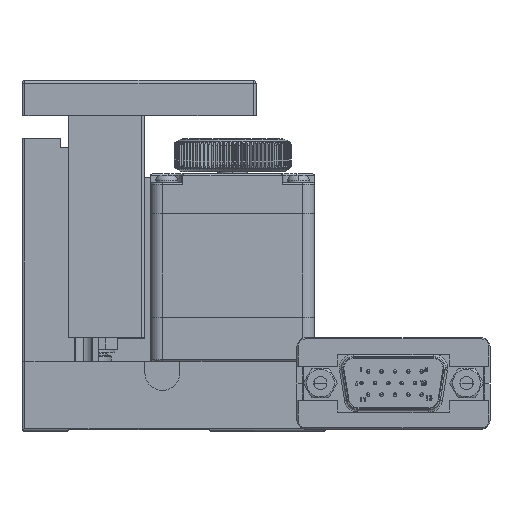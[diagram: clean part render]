
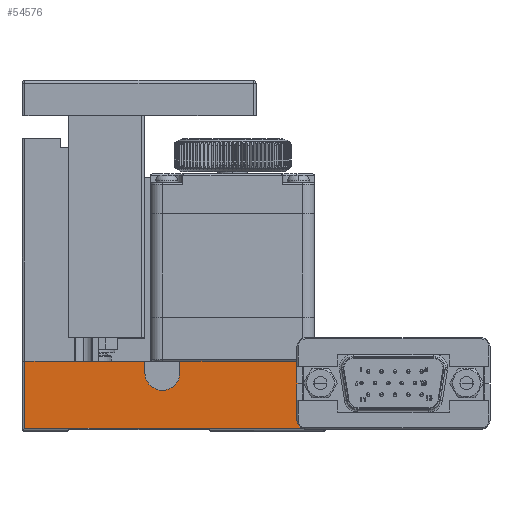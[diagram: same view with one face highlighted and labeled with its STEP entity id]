
A CAD part, top view. The second image highlights one B-rep face of the part: STEP entity #54576.
In plain terms, the highlighted planar face has unit normal (0, 0, 1).
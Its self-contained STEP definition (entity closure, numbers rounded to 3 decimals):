
#693 = ORIENTED_EDGE ( 'NONE', *, *, #53561, .F. ) ;
#2299 = CARTESIAN_POINT ( 'NONE',  ( 25.5, -11.5, 24. ) ) ;
#2664 = VERTEX_POINT ( 'NONE', #9836 ) ;
#2916 = DIRECTION ( 'NONE',  ( 1., 0., 0. ) ) ;
#3663 = VERTEX_POINT ( 'NONE', #39947 ) ;
#5006 = DIRECTION ( 'NONE',  ( 1., 0., 0. ) ) ;
#9836 = CARTESIAN_POINT ( 'NONE',  ( -5., 0., 24. ) ) ;
#9968 = LINE ( 'NONE', #12873, #41872 ) ;
#10288 = FACE_OUTER_BOUND ( 'NONE', #34164, .T. ) ;
#10770 = VERTEX_POINT ( 'NONE', #34770 ) ;
#12873 = CARTESIAN_POINT ( 'NONE',  ( 25.5, -12., 24. ) ) ;
#14024 = LINE ( 'NONE', #78942, #35012 ) ;
#14315 = ORIENTED_EDGE ( 'NONE', *, *, #20446, .T. ) ;
#15429 = PLANE ( 'NONE',  #22726 ) ;
#15586 = ORIENTED_EDGE ( 'NONE', *, *, #82175, .F. ) ;
#18749 = VERTEX_POINT ( 'NONE', #32262 ) ;
#20446 = EDGE_CURVE ( 'NONE', #47909, #24850, #26379, .T. ) ;
#22726 = AXIS2_PLACEMENT_3D ( 'NONE', #79128, #41070, #2916 ) ;
#24850 = VERTEX_POINT ( 'NONE', #58619 ) ;
#24983 = ORIENTED_EDGE ( 'NONE', *, *, #42246, .F. ) ;
#25094 = DIRECTION ( 'NONE',  ( 0., -1., 0. ) ) ;
#25599 = DIRECTION ( 'NONE',  ( 0., 0., 1. ) ) ;
#25998 = DIRECTION ( 'NONE',  ( 0., 1., 0. ) ) ;
#26379 = LINE ( 'NONE', #2299, #41301 ) ;
#26672 = ORIENTED_EDGE ( 'NONE', *, *, #59243, .F. ) ;
#27697 = DIRECTION ( 'NONE',  ( 1., 0., 0. ) ) ;
#31924 = DIRECTION ( 'NONE',  ( 0., -1., 0. ) ) ;
#31929 = EDGE_CURVE ( 'NONE', #3663, #47909, #56382, .T. ) ;
#32262 = CARTESIAN_POINT ( 'NONE',  ( 1., -2., 24. ) ) ;
#34164 = EDGE_LOOP ( 'NONE', ( #24983, #26672, #42638, #14315, #51403, #693, #15586, #74714 ) ) ;
#34770 = CARTESIAN_POINT ( 'NONE',  ( 1., 0., 24. ) ) ;
#35012 = VECTOR ( 'NONE', #40877, 1000. ) ;
#36808 = VERTEX_POINT ( 'NONE', #72369 ) ;
#37441 = VECTOR ( 'NONE', #25094, 1000. ) ;
#37884 = VECTOR ( 'NONE', #31924, 1000. ) ;
#39947 = CARTESIAN_POINT ( 'NONE',  ( -25.5, 0., 24. ) ) ;
#40877 = DIRECTION ( 'NONE',  ( 0., 1., 0. ) ) ;
#41070 = DIRECTION ( 'NONE',  ( 0., 0., 1. ) ) ;
#41301 = VECTOR ( 'NONE', #27697, 1000. ) ;
#41872 = VECTOR ( 'NONE', #25998, 1000. ) ;
#42246 = EDGE_CURVE ( 'NONE', #2664, #72223, #71743, .T. ) ;
#42638 = ORIENTED_EDGE ( 'NONE', *, *, #31929, .T. ) ;
#47909 = VERTEX_POINT ( 'NONE', #57467 ) ;
#48540 = VECTOR ( 'NONE', #5006, 1000. ) ;
#51403 = ORIENTED_EDGE ( 'NONE', *, *, #74509, .T. ) ;
#52623 = CARTESIAN_POINT ( 'NONE',  ( -5., -2., 24. ) ) ;
#53561 = EDGE_CURVE ( 'NONE', #10770, #36808, #57275, .T. ) ;
#54576 = ADVANCED_FACE ( 'NONE', ( #10288 ), #15429, .T. ) ;
#55032 = CARTESIAN_POINT ( 'NONE',  ( -5., -2., 24. ) ) ;
#56382 = LINE ( 'NONE', #82329, #37441 ) ;
#57275 = LINE ( 'NONE', #80871, #74178 ) ;
#57467 = CARTESIAN_POINT ( 'NONE',  ( -25.5, -11.5, 24. ) ) ;
#58619 = CARTESIAN_POINT ( 'NONE',  ( 25.5, -11.5, 24. ) ) ;
#59243 = EDGE_CURVE ( 'NONE', #3663, #2664, #82326, .T. ) ;
#60055 = CIRCLE ( 'NONE', #66833, 3. ) ;
#62244 = EDGE_CURVE ( 'NONE', #72223, #18749, #60055, .T. ) ;
#63700 = CARTESIAN_POINT ( 'NONE',  ( -2., -2., 24. ) ) ;
#66833 = AXIS2_PLACEMENT_3D ( 'NONE', #63700, #25599, #70079 ) ;
#68112 = DIRECTION ( 'NONE',  ( 1., 0., 0. ) ) ;
#70079 = DIRECTION ( 'NONE',  ( 1., 0., 0. ) ) ;
#71743 = LINE ( 'NONE', #55032, #37884 ) ;
#72223 = VERTEX_POINT ( 'NONE', #52623 ) ;
#72369 = CARTESIAN_POINT ( 'NONE',  ( 25.5, 0., 24. ) ) ;
#74178 = VECTOR ( 'NONE', #68112, 1000. ) ;
#74509 = EDGE_CURVE ( 'NONE', #24850, #36808, #9968, .T. ) ;
#74714 = ORIENTED_EDGE ( 'NONE', *, *, #62244, .F. ) ;
#78942 = CARTESIAN_POINT ( 'NONE',  ( 1., -2., 24. ) ) ;
#79128 = CARTESIAN_POINT ( 'NONE',  ( -26., -12., 24. ) ) ;
#80871 = CARTESIAN_POINT ( 'NONE',  ( -26., 0., 24. ) ) ;
#81188 = CARTESIAN_POINT ( 'NONE',  ( -26., 0., 24. ) ) ;
#82175 = EDGE_CURVE ( 'NONE', #18749, #10770, #14024, .T. ) ;
#82326 = LINE ( 'NONE', #81188, #48540 ) ;
#82329 = CARTESIAN_POINT ( 'NONE',  ( -25.5, -12., 24. ) ) ;
